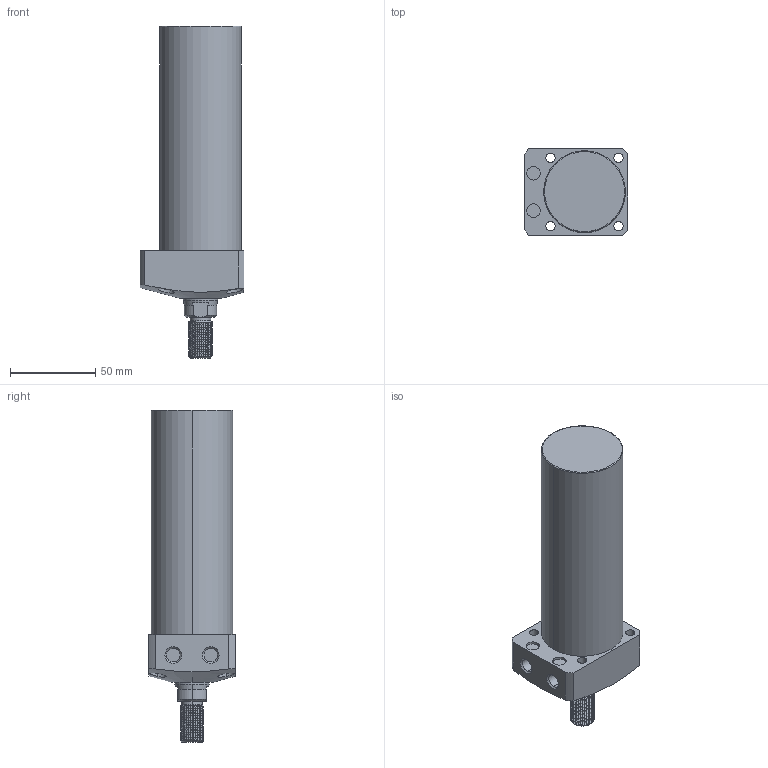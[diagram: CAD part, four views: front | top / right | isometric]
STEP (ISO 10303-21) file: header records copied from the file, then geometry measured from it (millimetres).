
FILE_DESCRIPTION (( 'STEP AP203' ), '1' );
FILE_NAME ('CLL-048CT-105.STEP', '2020-01-08T10:11:48', ( '' ), ( '' ), 'SwSTEP 2.0', 'SolidWorks 2015', '' );
FILE_SCHEMA (( 'CONFIG_CONTROL_DESIGN' ));
Length unit declared in the file: millimetre
Products named in the file (1): CLL-048CT-105
Bounding box: 61 x 51 x 195 mm (x, y, z)
Volume: 317858.4 mm3; surface area: 35945.4 mm2
Topology: 1 solids, 1 shells, 122 faces, 310 edges, 201 vertices
Faces by surface type: cylinder 77, plane 24, cone 17, torus 2, bspline 2
Entity records: 6487 total; most frequent: CARTESIAN_POINT 3686, ORIENTED_EDGE 620, DIRECTION 522, EDGE_CURVE 310, AXIS2_PLACEMENT_3D 206, VERTEX_POINT 201, EDGE_LOOP 141, ADVANCED_FACE 122
